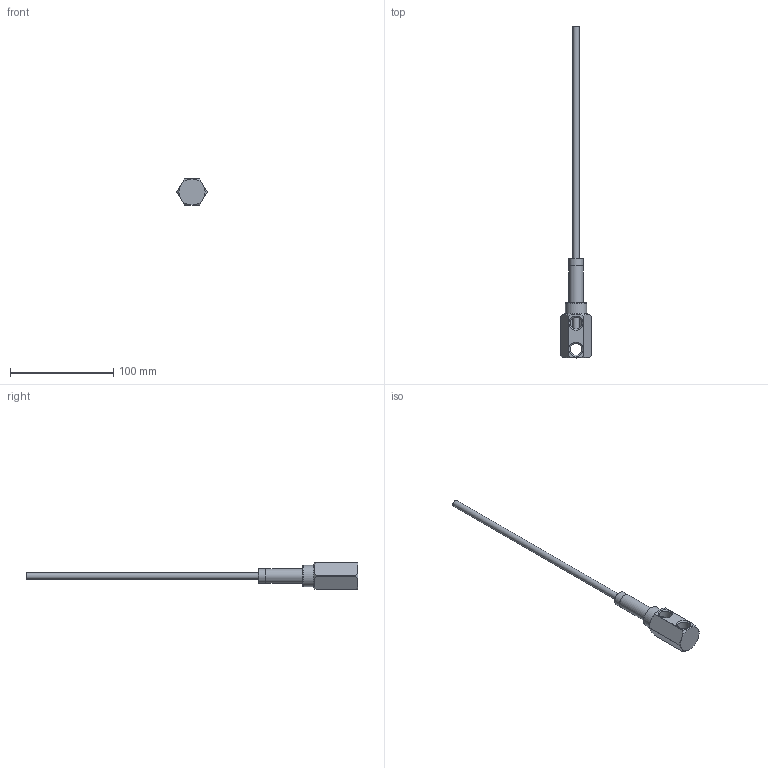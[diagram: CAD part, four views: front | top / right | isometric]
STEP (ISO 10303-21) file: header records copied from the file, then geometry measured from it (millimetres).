
FILE_DESCRIPTION(/* description */ (''),/* implementation_level */ '2;1');
FILE_NAME(/* name */ 'C:/Users/drich/Desktop/141N-4 v1.step',/* time_stamp */ '2020-01-15T19:40:18-06:00',/* author */ (''),/* organization */ (''),/* preprocessor_version */ 'ST-DEVELOPER v18',/* originating_system */ 'Autodesk Translation Framework v8.12.0.6',/* authorisation */ '');
FILE_SCHEMA (('AP203_CONFIGURATION_CONTROLLED_3D_DESIGN_OF_MECHANICAL_PARTS_AND_ASSEMBLIES_MIM_LF { 1 0 10303 203 3 1 4 }','AUTOMOTIVE_DESIGN { 1 0 10303 214 3 1 1 }'));
Length unit declared in the file: inch
Products named in the file (4): 141N-4; 141H-4; SSPN14-2; 250T-12
Assembly tree (3 placements, depth 2):
  141N-4
    141H-4
    SSPN14-2
    250T-12
Bounding box: 29.26 x 321.39 x 25.4 mm (x, y, z)
Volume: 29341.8 mm3; surface area: 21253.6 mm2
Topology: 3 solids, 3 shells, 51 faces, 137 edges, 92 vertices
Faces by surface type: cylinder 19, cone 15, plane 15, torus 2
Full cylindrical faces by diameter (mm): 4.318 x1, 5.474 x1, 6.243 x1, 9.246 x1, 11.668 x4, 13.665 x2, 13.716 x1, 20.625 x1
Entity records: 1831 total; most frequent: CARTESIAN_POINT 378, DIRECTION 311, ORIENTED_EDGE 274, EDGE_CURVE 137, AXIS2_PLACEMENT_3D 137, VERTEX_POINT 92, CIRCLE 77, EDGE_LOOP 63
